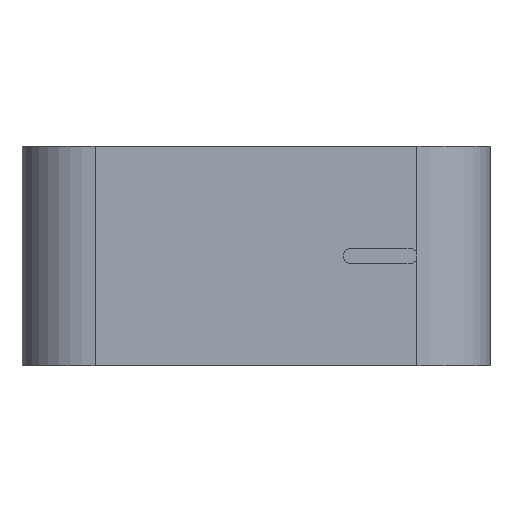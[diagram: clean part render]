
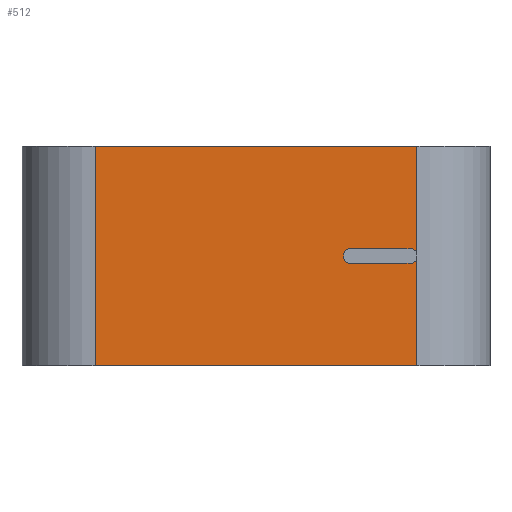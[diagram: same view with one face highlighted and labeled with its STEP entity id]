
A CAD part, left-side view. The second image highlights one B-rep face of the part: STEP entity #512.
In plain terms, the highlighted planar face has unit normal (-1, 0, 0).
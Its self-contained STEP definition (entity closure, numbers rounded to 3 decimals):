
#34 = DIRECTION ( 'NONE',  ( 0., 0., 1. ) ) ;
#48 = AXIS2_PLACEMENT_3D ( 'NONE', #1196, #494, #73 ) ;
#58 = ORIENTED_EDGE ( 'NONE', *, *, #637, .T. ) ;
#66 = CARTESIAN_POINT ( 'NONE',  ( -18.8, -10.6, 7.4 ) ) ;
#73 = DIRECTION ( 'NONE',  ( 0., 1., 0. ) ) ;
#84 = VERTEX_POINT ( 'NONE', #1231 ) ;
#92 = CIRCLE ( 'NONE', #920, 0.4 ) ;
#110 = ORIENTED_EDGE ( 'NONE', *, *, #348, .F. ) ;
#113 = DIRECTION ( 'NONE',  ( 0., 1., 0. ) ) ;
#117 = CARTESIAN_POINT ( 'NONE',  ( -18.8, -6., 7.4 ) ) ;
#135 = CARTESIAN_POINT ( 'NONE',  ( -18.8, -6.4, 7.4 ) ) ;
#154 = CARTESIAN_POINT ( 'NONE',  ( -18.8, 11., 15. ) ) ;
#169 = DIRECTION ( 'NONE',  ( 0., 1., 0. ) ) ;
#173 = CARTESIAN_POINT ( 'NONE',  ( -18.8, -6.4, 7.6 ) ) ;
#177 = DIRECTION ( 'NONE',  ( 0., -1., 0. ) ) ;
#189 = DIRECTION ( 'NONE',  ( 0., 0., -1. ) ) ;
#190 = VERTEX_POINT ( 'NONE', #1067 ) ;
#191 = ORIENTED_EDGE ( 'NONE', *, *, #685, .F. ) ;
#192 = DIRECTION ( 'NONE',  ( 0., 1., 0. ) ) ;
#194 = PLANE ( 'NONE',  #1197 ) ;
#207 = CARTESIAN_POINT ( 'NONE',  ( -18.8, 11., 15. ) ) ;
#210 = FACE_OUTER_BOUND ( 'NONE', #528, .T. ) ;
#213 = EDGE_CURVE ( 'NONE', #877, #728, #262, .T. ) ;
#225 = VECTOR ( 'NONE', #309, 1000. ) ;
#234 = VERTEX_POINT ( 'NONE', #1302 ) ;
#243 = VECTOR ( 'NONE', #34, 1000. ) ;
#262 = CIRCLE ( 'NONE', #1192, 0.4 ) ;
#280 = EDGE_CURVE ( 'NONE', #84, #728, #589, .T. ) ;
#287 = VECTOR ( 'NONE', #798, 1000. ) ;
#289 = EDGE_CURVE ( 'NONE', #234, #870, #1204, .T. ) ;
#291 = DIRECTION ( 'NONE',  ( 0., 0., 1. ) ) ;
#309 = DIRECTION ( 'NONE',  ( 0., -1., 0. ) ) ;
#323 = EDGE_CURVE ( 'NONE', #557, #190, #783, .T. ) ;
#348 = EDGE_CURVE ( 'NONE', #412, #557, #599, .T. ) ;
#396 = CARTESIAN_POINT ( 'NONE',  ( -18.8, -11., 7.4 ) ) ;
#399 = CIRCLE ( 'NONE', #900, 0.4 ) ;
#409 = LINE ( 'NONE', #1115, #287 ) ;
#412 = VERTEX_POINT ( 'NONE', #813 ) ;
#436 = CARTESIAN_POINT ( 'NONE',  ( -18.8, -11., 15. ) ) ;
#454 = DIRECTION ( 'NONE',  ( 0., 1., 0. ) ) ;
#492 = LINE ( 'NONE', #883, #1072 ) ;
#494 = DIRECTION ( 'NONE',  ( -1., 0., 0. ) ) ;
#495 = VECTOR ( 'NONE', #291, 1000. ) ;
#511 = LINE ( 'NONE', #913, #225 ) ;
#512 = ADVANCED_FACE ( 'NONE', ( #210 ), #194, .F. ) ;
#528 = EDGE_LOOP ( 'NONE', ( #110, #856, #191, #58, #1024, #761, #1017, #1273, #842, #673, #1070, #636 ) ) ;
#557 = VERTEX_POINT ( 'NONE', #955 ) ;
#580 = EDGE_CURVE ( 'NONE', #870, #797, #92, .T. ) ;
#583 = CARTESIAN_POINT ( 'NONE',  ( -18.8, -6., 7.4 ) ) ;
#589 = LINE ( 'NONE', #1184, #495 ) ;
#599 = CIRCLE ( 'NONE', #48, 0.4 ) ;
#614 = CARTESIAN_POINT ( 'NONE',  ( -18.8, 16., 15. ) ) ;
#636 = ORIENTED_EDGE ( 'NONE', *, *, #323, .F. ) ;
#637 = EDGE_CURVE ( 'NONE', #1270, #836, #658, .T. ) ;
#658 = LINE ( 'NONE', #154, #1301 ) ;
#673 = ORIENTED_EDGE ( 'NONE', *, *, #289, .F. ) ;
#685 = EDGE_CURVE ( 'NONE', #1270, #1029, #492, .T. ) ;
#725 = CARTESIAN_POINT ( 'NONE',  ( -18.8, 11., 0. ) ) ;
#728 = VERTEX_POINT ( 'NONE', #396 ) ;
#743 = DIRECTION ( 'NONE',  ( -1., 0., 0. ) ) ;
#757 = CARTESIAN_POINT ( 'NONE',  ( -18.8, -11., 15. ) ) ;
#761 = ORIENTED_EDGE ( 'NONE', *, *, #280, .T. ) ;
#783 = LINE ( 'NONE', #1108, #845 ) ;
#785 = EDGE_CURVE ( 'NONE', #190, #234, #399, .T. ) ;
#794 = CARTESIAN_POINT ( 'NONE',  ( -18.8, -10.6, 7. ) ) ;
#797 = VERTEX_POINT ( 'NONE', #1033 ) ;
#798 = DIRECTION ( 'NONE',  ( 0., -1., 0. ) ) ;
#813 = CARTESIAN_POINT ( 'NONE',  ( -18.8, -11., 7.6 ) ) ;
#836 = VERTEX_POINT ( 'NONE', #725 ) ;
#842 = ORIENTED_EDGE ( 'NONE', *, *, #580, .F. ) ;
#845 = VECTOR ( 'NONE', #169, 1000. ) ;
#854 = LINE ( 'NONE', #757, #243 ) ;
#856 = ORIENTED_EDGE ( 'NONE', *, *, #1051, .T. ) ;
#870 = VERTEX_POINT ( 'NONE', #117 ) ;
#871 = DIRECTION ( 'NONE',  ( -1., 0., 0. ) ) ;
#877 = VERTEX_POINT ( 'NONE', #794 ) ;
#883 = CARTESIAN_POINT ( 'NONE',  ( -18.8, 16., 15. ) ) ;
#900 = AXIS2_PLACEMENT_3D ( 'NONE', #173, #994, #192 ) ;
#913 = CARTESIAN_POINT ( 'NONE',  ( -18.8, 16., 0. ) ) ;
#914 = EDGE_CURVE ( 'NONE', #797, #877, #409, .T. ) ;
#920 = AXIS2_PLACEMENT_3D ( 'NONE', #135, #743, #454 ) ;
#937 = EDGE_CURVE ( 'NONE', #836, #84, #511, .T. ) ;
#955 = CARTESIAN_POINT ( 'NONE',  ( -18.8, -10.6, 8. ) ) ;
#975 = DIRECTION ( 'NONE',  ( 0., 0., -1. ) ) ;
#994 = DIRECTION ( 'NONE',  ( -1., 0., 0. ) ) ;
#1005 = VECTOR ( 'NONE', #189, 1000. ) ;
#1017 = ORIENTED_EDGE ( 'NONE', *, *, #213, .F. ) ;
#1024 = ORIENTED_EDGE ( 'NONE', *, *, #937, .T. ) ;
#1028 = DIRECTION ( 'NONE',  ( 1., 0., 0. ) ) ;
#1029 = VERTEX_POINT ( 'NONE', #436 ) ;
#1033 = CARTESIAN_POINT ( 'NONE',  ( -18.8, -6.4, 7. ) ) ;
#1051 = EDGE_CURVE ( 'NONE', #412, #1029, #854, .T. ) ;
#1067 = CARTESIAN_POINT ( 'NONE',  ( -18.8, -6.4, 8. ) ) ;
#1070 = ORIENTED_EDGE ( 'NONE', *, *, #785, .F. ) ;
#1072 = VECTOR ( 'NONE', #1291, 1000. ) ;
#1108 = CARTESIAN_POINT ( 'NONE',  ( -18.8, -10.6, 8. ) ) ;
#1115 = CARTESIAN_POINT ( 'NONE',  ( -18.8, -10.6, 7. ) ) ;
#1184 = CARTESIAN_POINT ( 'NONE',  ( -18.8, -11., 15. ) ) ;
#1192 = AXIS2_PLACEMENT_3D ( 'NONE', #66, #871, #177 ) ;
#1196 = CARTESIAN_POINT ( 'NONE',  ( -18.8, -10.6, 7.6 ) ) ;
#1197 = AXIS2_PLACEMENT_3D ( 'NONE', #614, #1028, #113 ) ;
#1204 = LINE ( 'NONE', #583, #1005 ) ;
#1231 = CARTESIAN_POINT ( 'NONE',  ( -18.8, -11., 0. ) ) ;
#1270 = VERTEX_POINT ( 'NONE', #207 ) ;
#1273 = ORIENTED_EDGE ( 'NONE', *, *, #914, .F. ) ;
#1291 = DIRECTION ( 'NONE',  ( 0., -1., 0. ) ) ;
#1301 = VECTOR ( 'NONE', #975, 1000. ) ;
#1302 = CARTESIAN_POINT ( 'NONE',  ( -18.8, -6., 7.6 ) ) ;
